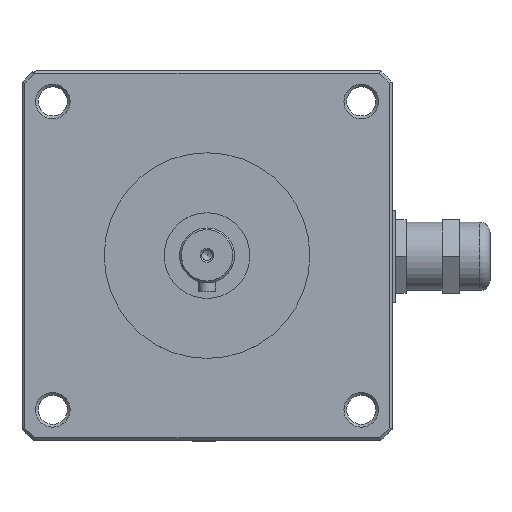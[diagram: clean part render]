
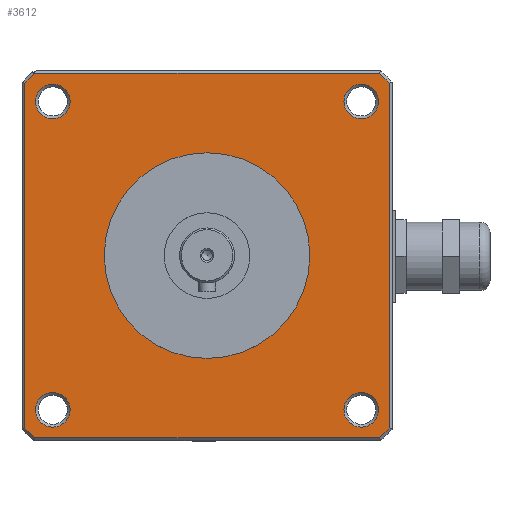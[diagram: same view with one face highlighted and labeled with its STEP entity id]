
A CAD part, top view. The second image highlights one B-rep face of the part: STEP entity #3612.
In plain terms, the highlighted planar face has unit normal (0, 0, 1).
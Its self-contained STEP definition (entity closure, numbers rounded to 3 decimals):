
#2556=CARTESIAN_POINT('',(-86.657,111.674,21.716));
#2557=VERTEX_POINT('',#2556);
#2851=CARTESIAN_POINT('',(-86.657,5.274,21.716));
#2852=VERTEX_POINT('',#2851);
#2853=CARTESIAN_POINT('',(-89.577,8.195,21.716));
#2854=VERTEX_POINT('',#2853);
#2855=CARTESIAN_POINT('',(-36.377,58.474,21.716));
#2856=DIRECTION('',(0.,0.,-1.0));
#2857=DIRECTION('',(-0.73,-0.684,0.));
#2858=AXIS2_PLACEMENT_3D('',#2855,#2856,#2857);
#2859=CIRCLE('',#2858,73.2);
#2860=EDGE_CURVE('',#2852,#2854,#2859,.T.);
#2969=CARTESIAN_POINT('',(-89.577,108.753,21.716));
#2970=VERTEX_POINT('',#2969);
#2971=CARTESIAN_POINT('',(-89.577,8.195,21.716));
#2972=DIRECTION('',(0.0,1.0,0.0));
#2973=VECTOR('',#2972,100.558);
#2974=LINE('',#2971,#2973);
#2975=EDGE_CURVE('',#2854,#2970,#2974,.T.);
#3081=CARTESIAN_POINT('',(-36.377,58.474,21.716));
#3082=DIRECTION('',(0.,0.,-1.0));
#3083=DIRECTION('',(-0.684,0.73,0.));
#3084=AXIS2_PLACEMENT_3D('',#3081,#3082,#3083);
#3085=CIRCLE('',#3084,73.2);
#3086=EDGE_CURVE('',#2970,#2557,#3085,.T.);
#3116=CARTESIAN_POINT('',(13.902,111.674,21.716));
#3117=VERTEX_POINT('',#3116);
#3118=CARTESIAN_POINT('',(-86.657,111.674,21.716));
#3119=DIRECTION('',(1.0,0.0,0.0));
#3120=VECTOR('',#3119,100.558);
#3121=LINE('',#3118,#3120);
#3122=EDGE_CURVE('',#2557,#3117,#3121,.T.);
#3139=CARTESIAN_POINT('',(16.823,108.753,21.716));
#3140=VERTEX_POINT('',#3139);
#3141=CARTESIAN_POINT('',(-36.377,58.474,21.716));
#3142=DIRECTION('',(0.,0.,-1.0));
#3143=DIRECTION('',(0.73,0.684,0.));
#3144=AXIS2_PLACEMENT_3D('',#3141,#3142,#3143);
#3145=CIRCLE('',#3144,73.2);
#3146=EDGE_CURVE('',#3117,#3140,#3145,.T.);
#3206=CARTESIAN_POINT('',(16.823,8.195,21.716));
#3207=VERTEX_POINT('',#3206);
#3208=CARTESIAN_POINT('',(16.823,108.753,21.716));
#3209=DIRECTION('',(0.0,-1.0,0.0));
#3210=VECTOR('',#3209,100.558);
#3211=LINE('',#3208,#3210);
#3212=EDGE_CURVE('',#3140,#3207,#3211,.T.);
#3264=CARTESIAN_POINT('',(13.902,5.274,21.716));
#3265=VERTEX_POINT('',#3264);
#3266=CARTESIAN_POINT('',(-36.377,58.474,21.716));
#3267=DIRECTION('',(0.,0.,-1.0));
#3268=DIRECTION('',(0.684,-0.73,0.));
#3269=AXIS2_PLACEMENT_3D('',#3266,#3267,#3268);
#3270=CIRCLE('',#3269,73.2);
#3271=EDGE_CURVE('',#3207,#3265,#3270,.T.);
#3298=CARTESIAN_POINT('',(13.902,5.274,21.716));
#3299=DIRECTION('',(-1.0,0.0,0.0));
#3300=VECTOR('',#3299,100.558);
#3301=LINE('',#3298,#3300);
#3302=EDGE_CURVE('',#3265,#2852,#3301,.T.);
#3542=CARTESIAN_POINT('',(-36.377,58.474,21.716));
#3543=DIRECTION('',(0.0,0.0,1.0));
#3544=DIRECTION('',(1.0,0.0,0.0));
#3545=AXIS2_PLACEMENT_3D('',#3542,#3543,#3544);
#3546=PLANE('',#3545);
#3547=ORIENTED_EDGE('',*,*,#2860,.F.);
#3548=ORIENTED_EDGE('',*,*,#3302,.F.);
#3549=ORIENTED_EDGE('',*,*,#3271,.F.);
#3550=ORIENTED_EDGE('',*,*,#3212,.F.);
#3551=ORIENTED_EDGE('',*,*,#3146,.F.);
#3552=ORIENTED_EDGE('',*,*,#3122,.F.);
#3553=ORIENTED_EDGE('',*,*,#3086,.F.);
#3554=ORIENTED_EDGE('',*,*,#2975,.F.);
#3555=EDGE_LOOP('',(#3547,#3548,#3549,#3550,#3551,#3552,#3553,#3554));
#3556=FACE_OUTER_BOUND('',#3555,.T.);
#3557=CARTESIAN_POINT('',(13.673,13.474,21.716));
#3558=VERTEX_POINT('',#3557);
#3559=CARTESIAN_POINT('',(8.623,13.474,21.716));
#3560=DIRECTION('',(0.0,0.0,1.0));
#3561=DIRECTION('',(-1.0,0.0,0.0));
#3562=AXIS2_PLACEMENT_3D('',#3559,#3560,#3561);
#3563=CIRCLE('',#3562,5.05);
#3564=EDGE_CURVE('',#3558,#3558,#3563,.T.);
#3565=ORIENTED_EDGE('',*,*,#3564,.F.);
#3566=EDGE_LOOP('',(#3565));
#3567=FACE_BOUND('',#3566,.T.);
#3568=CARTESIAN_POINT('',(13.673,103.474,21.716));
#3569=VERTEX_POINT('',#3568);
#3570=CARTESIAN_POINT('',(8.623,103.474,21.716));
#3571=DIRECTION('',(0.0,0.0,1.0));
#3572=DIRECTION('',(-1.0,0.0,0.0));
#3573=AXIS2_PLACEMENT_3D('',#3570,#3571,#3572);
#3574=CIRCLE('',#3573,5.05);
#3575=EDGE_CURVE('',#3569,#3569,#3574,.T.);
#3576=ORIENTED_EDGE('',*,*,#3575,.F.);
#3577=EDGE_LOOP('',(#3576));
#3578=FACE_BOUND('',#3577,.T.);
#3579=CARTESIAN_POINT('',(-6.377,58.474,21.716));
#3580=VERTEX_POINT('',#3579);
#3581=CARTESIAN_POINT('',(-36.377,58.474,21.716));
#3582=DIRECTION('',(0.0,0.0,-1.0));
#3583=DIRECTION('',(-1.0,0.0,0.0));
#3584=AXIS2_PLACEMENT_3D('',#3581,#3582,#3583);
#3585=CIRCLE('',#3584,30.0);
#3586=EDGE_CURVE('',#3580,#3580,#3585,.T.);
#3587=ORIENTED_EDGE('',*,*,#3586,.T.);
#3588=EDGE_LOOP('',(#3587));
#3589=FACE_BOUND('',#3588,.T.);
#3590=CARTESIAN_POINT('',(-76.327,103.474,21.716));
#3591=VERTEX_POINT('',#3590);
#3592=CARTESIAN_POINT('',(-81.377,103.474,21.716));
#3593=DIRECTION('',(0.0,0.0,1.0));
#3594=DIRECTION('',(-1.0,0.0,0.0));
#3595=AXIS2_PLACEMENT_3D('',#3592,#3593,#3594);
#3596=CIRCLE('',#3595,5.05);
#3597=EDGE_CURVE('',#3591,#3591,#3596,.T.);
#3598=ORIENTED_EDGE('',*,*,#3597,.F.);
#3599=EDGE_LOOP('',(#3598));
#3600=FACE_BOUND('',#3599,.T.);
#3601=CARTESIAN_POINT('',(-76.327,13.474,21.716));
#3602=VERTEX_POINT('',#3601);
#3603=CARTESIAN_POINT('',(-81.377,13.474,21.716));
#3604=DIRECTION('',(0.0,0.0,1.0));
#3605=DIRECTION('',(-1.0,0.0,0.0));
#3606=AXIS2_PLACEMENT_3D('',#3603,#3604,#3605);
#3607=CIRCLE('',#3606,5.05);
#3608=EDGE_CURVE('',#3602,#3602,#3607,.T.);
#3609=ORIENTED_EDGE('',*,*,#3608,.F.);
#3610=EDGE_LOOP('',(#3609));
#3611=FACE_BOUND('',#3610,.T.);
#3612=ADVANCED_FACE('',(#3556,#3567,#3578,#3589,#3600,#3611),#3546,.T.);
